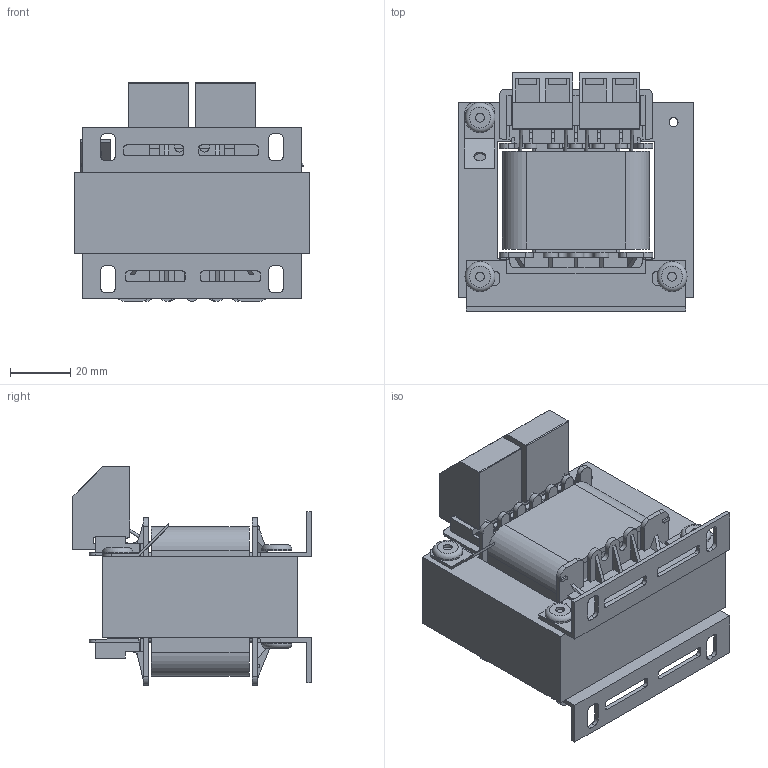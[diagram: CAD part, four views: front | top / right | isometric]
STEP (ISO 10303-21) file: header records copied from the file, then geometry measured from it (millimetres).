
FILE_DESCRIPTION(('FreeCAD Model'),'2;1');
FILE_NAME('C:/Users/segelbacher/Documents/FreeCAD/EPA/EPA1N-7_EDR2627/Step/EPA1N-7_EDR2617.step','2018-05-15T17:01:07',('Author'),('') ,'Open CASCADE STEP processor 6.8','FreeCAD','Unknown');
FILE_SCHEMA(('AUTOMOTIVE_DESIGN_CC2 { 1 2 10303 214 -1 1 5 4 }'));
Length unit declared in the file: millimetre
Products named in the file (19): ASSEMBLY; Kern_EI7827; Clone_of_Clone_of_Fillet004; Draht; Klemme_V1_V2; Spulen_K; Klemme_U1-U2; PE_Blech; Fillet002; CU-Wdg; Wdg_ISO; Clone_of_Fillet003; Clone_of_Fillet002; Clone_of_Fillet004; Clone_of_Fillet001; Clone_of_Draht003; Clone_of_Draht002; Clone_of_Draht001; Fillet001
Assembly tree (18 placements, depth 2):
  ASSEMBLY
    Kern_EI7827
    Clone_of_Clone_of_Fillet004
    Draht
    Klemme_V1_V2
    Spulen_K
    Klemme_U1-U2
    PE_Blech
    Fillet002
    CU-Wdg
    Wdg_ISO
    Clone_of_Fillet003
    Clone_of_Fillet002
    Clone_of_Fillet004
    Clone_of_Fillet001
    Clone_of_Draht003
    Clone_of_Draht002
    Clone_of_Draht001
    Fillet001
Bounding box: 78 x 79.5 x 72.75 mm (x, y, z)
Volume: 192981.1 mm3; surface area: 89203.6 mm2
Topology: 18 solids, 18 shells, 1217 faces, 3401 edges, 2235 vertices
Faces by surface type: plane 848, cylinder 292, extrusion 72, torus 5
Full cylindrical faces by diameter (mm): 1 x4, 3 x9, 4 x1, 10 x5
Entity records: 113913 total; most frequent: CARTESIAN_POINT 41796, DIRECTION 11507, VECTOR 7651, LINE 7579, ORIENTED_EDGE 6802, PCURVE 6802, DEFINITIONAL_REPRESENTATION 6802, EDGE_CURVE 3401
